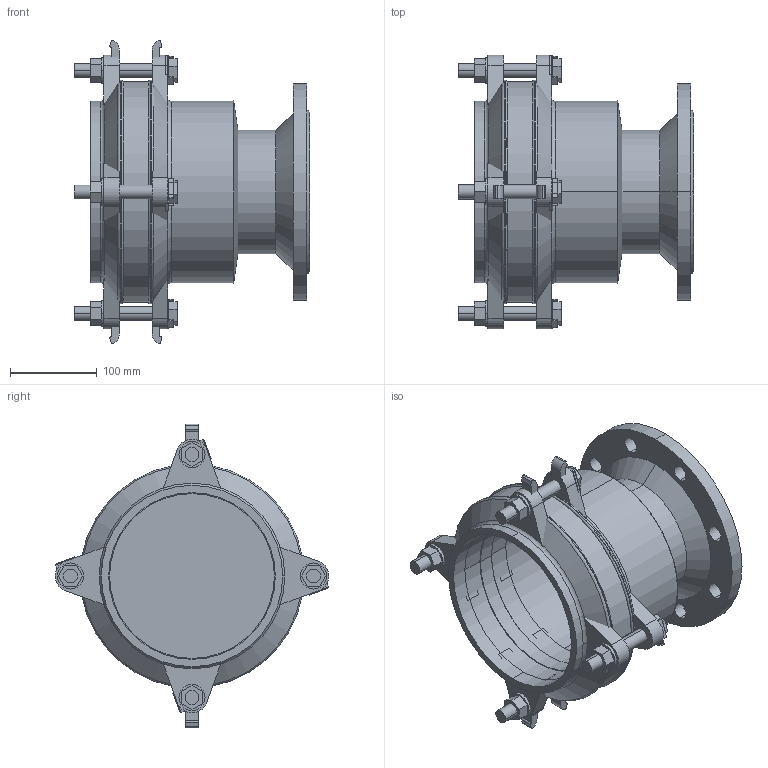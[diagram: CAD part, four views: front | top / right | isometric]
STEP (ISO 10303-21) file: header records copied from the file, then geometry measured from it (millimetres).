
FILE_DESCRIPTION(('STEP AP214'),'1');
FILE_NAME('EM00004744 DN 125-150.STP','2015-01-29T09:16:43',(' '),(' '),'Spatial InterOp 3D',' ',' ');
FILE_SCHEMA(('automotive_design'));
Length unit declared in the file: millimetre
Products named in the file (46): 3D-Objekt
Bounding box: 271 x 315.52 x 350 mm (x, y, z)
Volume: 3209649.4 mm3; surface area: 847626.9 mm2
Topology: 46 solids, 46 shells, 362 faces, 808 edges, 538 vertices
Faces by surface type: plane 232, cylinder 104, cone 14, torus 12
Entity records: 14110 total; most frequent: DIRECTION 1894, CARTESIAN_POINT 1754, ORIENTED_EDGE 1616, EDGE_CURVE 808, AXIS2_PLACEMENT_3D 678, VERTEX_POINT 538, LINE 538, VECTOR 538
